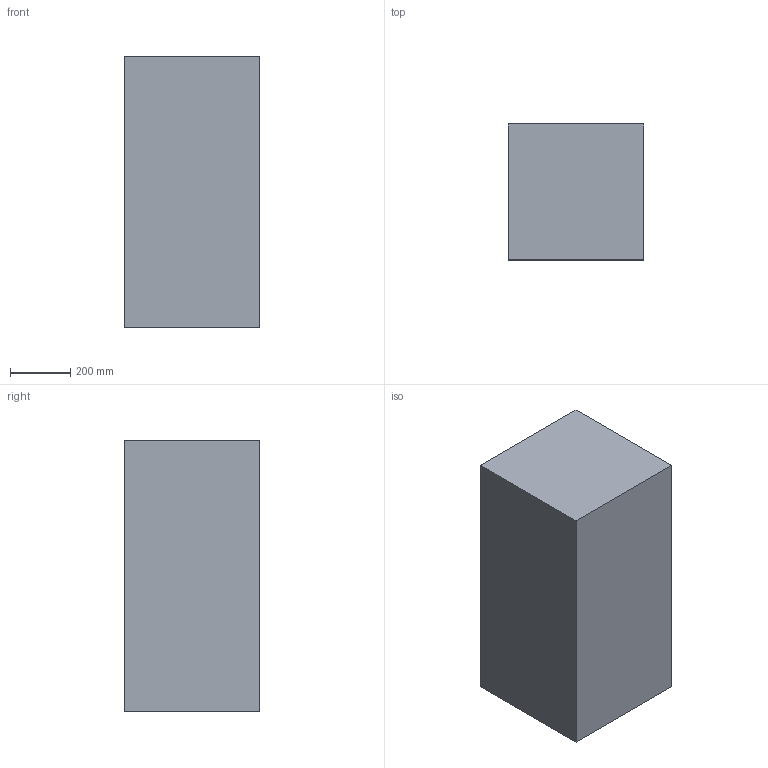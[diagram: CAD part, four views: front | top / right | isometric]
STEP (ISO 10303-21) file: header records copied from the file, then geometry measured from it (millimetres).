
FILE_DESCRIPTION (( 'STEP AP203' ), '1' );
FILE_NAME ('Extrabox Type B.STEP', '2019-01-15T13:50:39', ( '' ), ( '' ), 'SwSTEP 2.0', 'SolidWorks 2019', '' );
FILE_SCHEMA (( 'CONFIG_CONTROL_DESIGN' ));
Length unit declared in the file: millimetre
Products named in the file (1): Extrabox Type B
Bounding box: 450 x 450 x 900 mm (x, y, z)
Volume: 182250000 mm3; surface area: 2025000 mm2
Topology: 1 solids, 1 shells, 6 faces, 12 edges, 8 vertices
Faces by surface type: plane 6
Entity records: 233 total; most frequent: CARTESIAN_POINT 27, DIRECTION 26, ORIENTED_EDGE 24, VECTOR 12, EDGE_CURVE 12, LINE 12, PERSON_AND_ORGANIZATION 8, VERTEX_POINT 8
